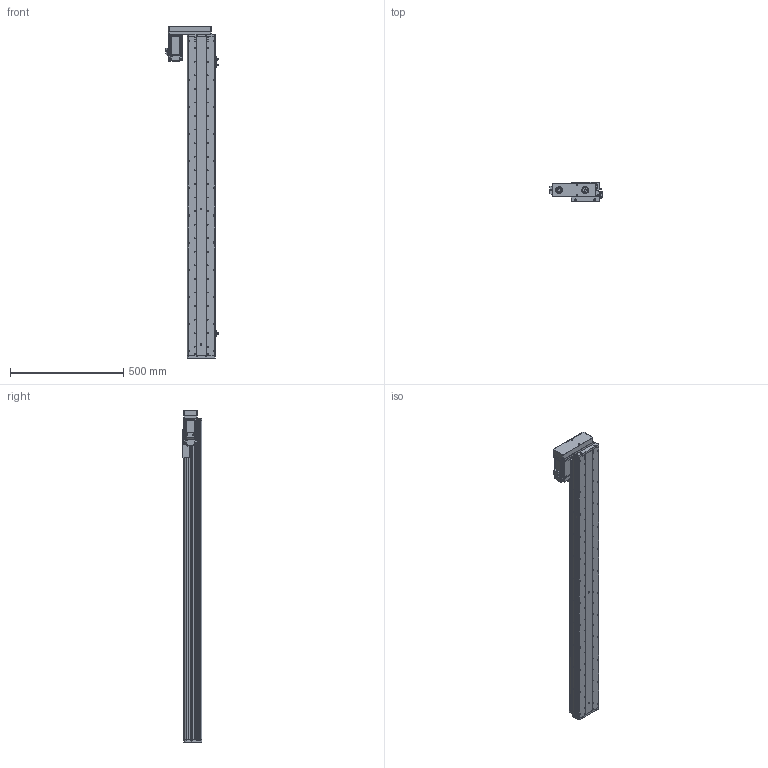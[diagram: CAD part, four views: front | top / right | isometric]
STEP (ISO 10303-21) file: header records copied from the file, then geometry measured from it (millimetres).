
FILE_DESCRIPTION (( 'STEP AP214' ), '1' );
FILE_NAME ('KSD125S-S1200-ML-CM.STEP', '2017-10-21T08:46:36', ( '微软用户' ), ( '微软中国' ), 'SwSTEP 2.0', 'SolidWorks 2014', '' );
FILE_SCHEMA (( 'AUTOMOTIVE_DESIGN' ));
Length unit declared in the file: millimetre
Products named in the file (16): HTPA30S3M150_A_H6_a佪裝蚚; HTPA30S3M150_A_H6_a萇儂蚚; 125宽马达安装板连板左右折丝杆; 125悵誘欶酘衵殏; KSD125S-1200俴最佪裝滅鳥裔; KSD125S-1200俴最佪裝菁啣; KSD125-賑雄釱1; MHMD042G1CA_2_03; 拸萇儂釱滅袉菜; 拸萇儂釱滅袉菜-1; U倰嫖萇假蚾璃; ヶ傷啣-125遵耀郪; 125-帣傷啣1; KSD125S-S1200-ML-CM; 覜茼え68遵圉猾敕; U倰嫖萇EEㄜSX672
Assembly tree (19 placements, depth 2):
  KSD125S-S1200-ML-CM
    125-帣傷啣1
    ヶ傷啣-125遵耀郪
    U倰嫖萇假蚾璃  x3
    拸萇儂釱滅袉菜-1
    拸萇儂釱滅袉菜
    MHMD042G1CA_2_03
    KSD125-賑雄釱1
    KSD125S-1200俴最佪裝菁啣
    KSD125S-1200俴最佪裝滅鳥裔
    125悵誘欶酘衵殏
    125宽马达安装板连板左右折丝杆
    HTPA30S3M150_A_H6_a萇儂蚚
    HTPA30S3M150_A_H6_a佪裝蚚
    U倰嫖萇EEㄜSX672  x3
    覜茼え68遵圉猾敕
Bounding box: 234.2 x 86 x 1467.5 mm (x, y, z)
Volume: 4508966 mm3; surface area: 1508592 mm2
Topology: 18 solids, 21 shells, 2291 faces, 6651 edges, 4389 vertices
Faces by surface type: cylinder 1458, plane 692, cone 119, bspline 22
Entity records: 81353 total; most frequent: CARTESIAN_POINT 16465, DIRECTION 12685, ORIENTED_EDGE 11810, EDGE_CURVE 5983, AXIS2_PLACEMENT_3D 4923, VERTEX_POINT 3981, CIRCLE 2851, VECTOR 2839
